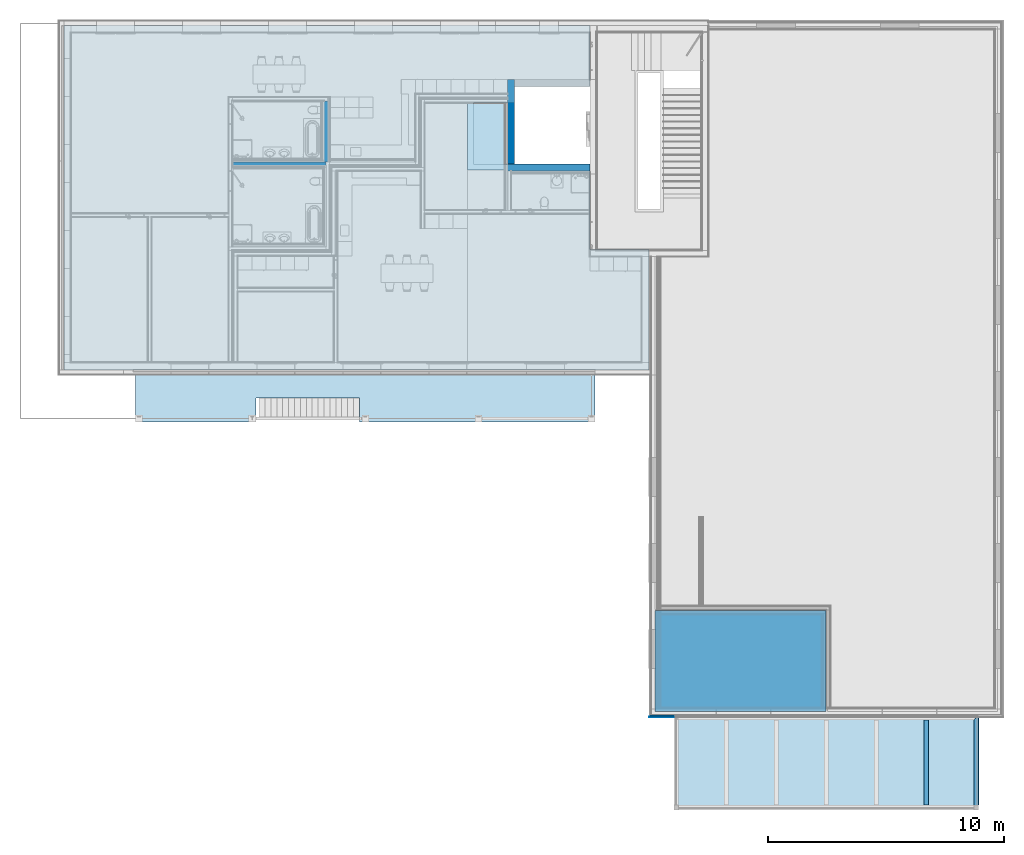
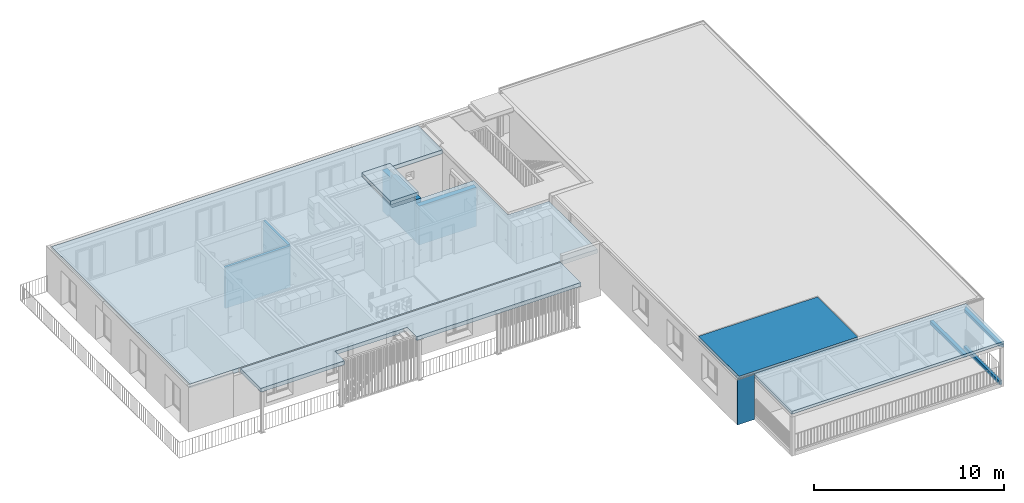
# One storey, part 2 of 34: 7 building element parts, 4 slabs, 4 walls, 3 beams, 2 elements without a shape of their own.
"""IFC4 building model written with IfcOpenShell, lengths in millimetres."""

from ifc_helpers import new_model, entity, si_unit, converted_unit, derived_unit, direction, frame, origin_with_axes, place, context, subcontext, project, spatial, polygons, material, constituent, constituent_set, type_object, element, aggregate, save


model = new_model("IFC4")

# Units and contexts
model_context = context("Model", 3, precision=0.01, world=origin_with_axes(), true_north=direction((0.0, 1.0)))
body_context = subcontext(model_context, "Body", "Model", "MODEL_VIEW")
ifc_project = project(units=[si_unit("LENGTHUNIT", "METRE", prefix="MILLI"), si_unit("AREAUNIT", "SQUARE_METRE"), si_unit("VOLUMEUNIT", "CUBIC_METRE"), converted_unit("PLANEANGLEUNIT", "DEGREE", entity("IfcPlaneAngleMeasure", 0.0174532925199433), si_unit("PLANEANGLEUNIT", "RADIAN"), dimensions=[0, 0, 0, 0, 0, 0, 0]), converted_unit("TIMEUNIT", "Year", entity("IfcTimeMeasure", 31557600.0), si_unit("TIMEUNIT", "SECOND"), dimensions=[0, 0, 1, 0, 0, 0, 0]), si_unit("MASSUNIT", "GRAM", prefix="KILO"), si_unit("THERMODYNAMICTEMPERATUREUNIT", "DEGREE_CELSIUS"), si_unit("LUMINOUSINTENSITYUNIT", "LUMEN"), si_unit("ENERGYUNIT", "JOULE", prefix="MEGA"), derived_unit("THERMALCONDUCTANCEUNIT", [(si_unit("POWERUNIT", "WATT"), 1), (si_unit("LENGTHUNIT", "METRE"), -1), (si_unit("THERMODYNAMICTEMPERATUREUNIT", "KELVIN"), -1)]), derived_unit("SPECIFICHEATCAPACITYUNIT", [(si_unit("ENERGYUNIT", "JOULE"), 1), (si_unit("MASSUNIT", "GRAM", prefix="KILO"), -1), (si_unit("THERMODYNAMICTEMPERATUREUNIT", "KELVIN"), -1)]), derived_unit("MASSDENSITYUNIT", [(si_unit("MASSUNIT", "GRAM", prefix="KILO"), 1), (si_unit("VOLUMEUNIT", "CUBIC_METRE"), -1)])], contexts=[model_context])

# Site, building, storey
site_placement = place(None, origin_with_axes())
site = spatial("IfcSite", under=ifc_project, at=site_placement, Name="Gelände", CompositionType="ELEMENT")
building_placement = place(site_placement, origin_with_axes())
building = spatial("IfcBuilding", under=site, at=building_placement, Name="Gebäude", CompositionType="ELEMENT")
storey_placement = place(building_placement, frame((0.0, 0.0, 5799.999999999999), z_axis=(0.0, 0.0, 1.0), x_axis=(1.0, 0.0, 0.0)))
storey = spatial("IfcBuildingStorey", under=building, at=storey_placement, Name="2.OG", CompositionType="ELEMENT", Elevation=5800.0)

# Beams
ifc_material_1 = material(Name="Massivholz")
beam_type_1 = type_object("IfcBeamType", Name="Massivholz 200 x 200", PredefinedType="NOTDEFINED")
beam_1_placement = place(storey_placement, frame((31872.41342913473, 8518.597281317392, 3219.999895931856), z_axis=(0.0, 0.0, 1.0), x_axis=(-1.0, 0.0, 0.0)))
element("IfcBeam", 1, at=beam_1_placement, inside=storey, type_object=beam_type_1, material=ifc_material_1, Name="Unterzug-027", PredefinedType="NOTDEFINED", context=body_context, shape_type="Tessellation", body=[
    polygons([(199.9999999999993, 200.0000000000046, 0.0), (199.9999999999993, 3799.99999999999, 0.0), (0.0, 3999.999999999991, 0.0), (0.0, 0.0, 0.0), (199.9999999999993, 200.0000000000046, -199.9999999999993), (199.9999999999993, 3799.99999999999, -199.9999999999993), (0.0, 3999.999999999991, -199.9999999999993), (0.0, 0.0, -199.9999999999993)], [[[1, 2, 3, 4]], [[5, 6, 2, 1]], [[3, 2, 6, 7]], [[4, 3, 7, 8]], [[5, 1, 4, 8]], [[8, 7, 6, 5]]], closed=True),
])
beam_2_placement = place(storey_placement, frame((29664.99741907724, 8318.597281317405, 3219.999948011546), z_axis=(0.0, 0.0, 1.0), x_axis=(-1.0, 0.0, 0.0)))
element("IfcBeam", 2, at=beam_2_placement, inside=storey, type_object=beam_type_1, material=ifc_material_1, Name="Unterzug-027", PredefinedType="NOTDEFINED", context=body_context, shape_type="Tessellation", body=[
    polygons([(100.0000000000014, 0.0, 0.0), (99.99999999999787, 3599.999999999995, 0.0), (-100.0000000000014, 3599.999999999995, 0.0), (-100.0000000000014, 0.0, 0.0), (100.0000000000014, 0.0, -199.9999999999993), (99.99999999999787, 3599.999999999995, -199.9999999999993), (-100.0000000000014, 3599.999999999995, -199.9999999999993), (-100.0000000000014, 0.0, -199.9999999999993)], [[[1, 2, 3, 4]], [[5, 6, 2, 1]], [[3, 2, 6, 7]], [[4, 3, 7, 8]], [[5, 1, 4, 8]], [[8, 7, 6, 5]]], closed=True),
])
ifc_material_2 = material(Name="Stahl")
ifc_constituent_1 = constituent(ifc_material_2, Name="Stahl 1")
ifc_material_3 = material(Name="Vollholzwerkstoff")
ifc_constituent_2 = constituent(ifc_material_3, Name="Vollholzwerkstoff")
ifc_constituent_3 = constituent(ifc_material_2, Name="Stahl 2")
ifc_constituent_set_1 = constituent_set(constituents=[ifc_constituent_1, ifc_constituent_2, ifc_constituent_3], Name="Dachrand Typ 2")
beam_type_2 = type_object("IfcBeamType", Name="Dachrand Typ 2 172 x 269", PredefinedType="NOTDEFINED")
beam_3_placement = place(storey_placement, frame((31882.9974188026, 8518.597281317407, 500.0), z_axis=(0.0, 0.0, 1.0), x_axis=(-1.0, 0.0, 0.0)))
element("IfcBeam", 3, at=beam_3_placement, inside=storey, type_object=beam_type_2, material=ifc_constituent_set_1, Name="Unterzug-028", PredefinedType="NOTDEFINED", context=body_context, shape_type="Tessellation", body=[
    polygons([(-2.866253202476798, 3799.999999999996, 266.1622942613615), (-4.866256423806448, 3799.999999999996, 266.3597288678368), (-4.866256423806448, 80.10479096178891, 266.3597288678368), (-2.866253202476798, 79.17562515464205, 266.1622942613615), (-2.866253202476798, 3799.999999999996, 0.0), (-4.866256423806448, 3799.999999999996, 0.0), (-4.866256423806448, 80.10479096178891, 0.0), (-2.866253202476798, 79.17562515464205, 0.0)], [[[1, 2, 3, 4]], [[1, 5, 6, 2]], [[2, 6, 7, 3]], [[4, 3, 7, 8]], [[5, 1, 4, 8]], [[6, 5, 8, 7]]], closed=True),
    polygons([(0.0, 3799.999999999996, 0.0), (163.255780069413, 3799.999999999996, 0.0), (163.255780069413, 1.998292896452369, 0.0), (0.0, 77.84401506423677, 0.0), (0.0, 3799.999999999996, 263.8696237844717), (163.255780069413, 3799.999999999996, 247.7534740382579), (163.255780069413, 1.998292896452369, 247.7534740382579), (0.0, 77.84401506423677, 263.8696237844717)], [[[1, 2, 3, 4]], [[1, 5, 6, 2]], [[2, 6, 7, 3]], [[4, 3, 7, 8]], [[5, 1, 4, 8]], [[6, 5, 8, 7]]], closed=True),
    polygons([(-4.866256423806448, 3799.999999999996, 266.3597286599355), (-2.866253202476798, 3799.999999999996, 266.1622942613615), (-2.866253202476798, 79.17562515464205, 266.1622942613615), (-4.866256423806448, 80.10479096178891, 266.3597286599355), (-4.866256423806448, 3799.999999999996, 269.0765727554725), (167.5570486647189, 3799.999999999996, 251.311436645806), (167.5570085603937, 3799.999999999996, 219.9999996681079), (165.4522595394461, 3799.999999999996, 219.9999996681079), (165.4522595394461, 3799.999999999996, 249.5463650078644), (165.4522595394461, 0.9778477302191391, 249.5463650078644), (165.4522595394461, 0.9778477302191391, 219.9999996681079), (167.5570085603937, 1.889372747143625e-05, 219.9999996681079), (167.5570486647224, 2.619735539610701e-07, 251.311436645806), (-4.866256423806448, 80.10479096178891, 269.0765727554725)], [[[1, 2, 3, 4]], [[1, 5, 6, 7, 8, 9, 2]], [[2, 9, 10, 3]], [[4, 3, 10, 11, 12, 13, 14]], [[5, 1, 4, 14]], [[6, 5, 14, 13]], [[7, 6, 13, 12]], [[8, 7, 12, 11]], [[9, 8, 11, 10]]], closed=True),
])

# Slabs
ifc_material_4 = material(Name="Beton bewehrt")
ifc_constituent_4 = constituent(ifc_material_4, Name="Beton bewehrt")
ifc_constituent_set_2 = constituent_set(constituents=[ifc_constituent_4], Name="Geschossdecke Typ 03")
slab_type_1 = type_object("IfcSlabType", Name="Geschossdecke Typ 03 250", PredefinedType="NOTDEFINED")
slab_1_placement = place(storey_placement, frame((10228.99744477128, 34647.59728131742, 3549.999999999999), z_axis=(0.0, 0.0, 1.0), x_axis=(1.0, 0.0, 0.0)))
element("IfcSlab", 4, at=slab_1_placement, inside=storey, type_object=slab_type_1, material=ifc_constituent_set_2, Name="Deckennr.-073", PredefinedType="NOTDEFINED", context=body_context, shape_type="Tessellation", body=[
    polygons([(0.0, 0.0, 0.0), (0.0, 0.0, -250.0), (0.0, -3024.999999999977, -250.0), (0.0, -3024.999999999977, 0.0), (1700.000015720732, 0.0, 0.0), (1700.000015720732, 0.0, -250.0), (1700.000015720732, -3024.999999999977, -250.0), (1700.000015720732, -3024.999999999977, 0.0)], [[[1, 2, 3, 4]], [[5, 6, 2, 1]], [[3, 2, 6, 7]], [[4, 3, 7, 8]], [[5, 1, 4, 8]], [[8, 7, 6, 5]]], closed=True),
])
ifc_constituent_5 = constituent(ifc_material_4, Name="Beton bewehrt")
ifc_constituent_set_3 = constituent_set(constituents=[ifc_constituent_5], Name="Geschossdecke Typ 03")
slab_2_placement = place(storey_placement, frame((-6861.004181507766, 37737.59728131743, 2899.999948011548), z_axis=(0.0, 0.0, 1.0), x_axis=(1.0, 0.0, 0.0)))
element("IfcSlab", 5, at=slab_2_placement, inside=storey, type_object=slab_type_1, material=ifc_constituent_set_3, Name="Deckennr.-073", PredefinedType="NOTDEFINED", context=body_context, shape_type="Tessellation", body=[
    polygons([(0.0, -14580.00054054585, 0.0), (0.0, 0.0, 0.0), (0.0, 0.0, -250.0), (0.0, -14580.00054054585, -250.0), (22290.00162627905, -2589.999999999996, 0.0), (22290.00162627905, 0.0, 0.0), (24781.00162627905, -14580.00054054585, 0.0), (24781.00162627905, -9489.999999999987, 0.0), (22290.00162627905, -9489.999999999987, 0.0), (22290.00162627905, -5864.999999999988, 0.0), (17340.00162627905, -5864.999999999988, 0.0), (17340.00162627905, -3280.000000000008, 0.0), (19090.00162627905, -3280.000000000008, 0.0), (19090.00162627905, -2589.999999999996, 0.0), (22290.00162627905, 0.0, -250.0), (24781.00162627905, -14580.00054054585, -250.0), (22290.00162627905, -2589.999999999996, -250.0), (19090.00162627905, -2589.999999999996, -250.0), (19090.00162627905, -3280.000000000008, -250.0), (17340.00162627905, -3280.000000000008, -250.0), (17340.00162627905, -5864.999999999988, -250.0), (22290.00162627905, -5864.999999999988, -250.0), (22290.00162627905, -9489.999999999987, -250.0), (24781.00162627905, -9489.999999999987, -250.0)], [[[1, 2, 3, 4]], [[5, 6, 2, 1, 7, 8, 9, 10, 11, 12, 13, 14]], [[2, 6, 15, 3]], [[16, 4, 3, 15, 17, 18, 19, 20, 21, 22, 23, 24]], [[7, 1, 4, 16]], [[6, 5, 17, 15]], [[8, 7, 16, 24]], [[9, 8, 24, 23]], [[10, 9, 23, 22]], [[11, 10, 22, 21]], [[12, 11, 21, 20]], [[13, 12, 20, 19]], [[14, 13, 19, 18]], [[5, 14, 18, 17]]], closed=True),
])
ifc_material_5 = material(Name="Brettschichtholz BSH")
ifc_constituent_6 = constituent(ifc_material_5, Name="Brettschichtholz BSH")
ifc_constituent_set_4 = constituent_set(constituents=[ifc_constituent_6], Name="Geschossdecke Typ 02")
slab_type_2 = type_object("IfcSlabType", Name="Geschossdecke Typ 02 180", PredefinedType="NOTDEFINED")
slab_3_placement = place(storey_placement, frame((18974.99747005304, 4518.597281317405, 3399.999895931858), z_axis=(0.0, 0.0, 1.0), x_axis=(1.0, 0.0, 0.0)))
element("IfcSlab", 6, at=slab_3_placement, inside=storey, type_object=slab_type_2, material=ifc_constituent_set_4, Name="Deckennr.-073", PredefinedType="NOTDEFINED", context=body_context, shape_type="Tessellation", body=[
    polygons([(12907.99994874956, 0.0, 0.0), (0.0, 0.0, 0.0), (0.0, 0.0, -179.9999999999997), (12907.99994874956, 0.0, -179.9999999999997), (12907.99994874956, 4000.0, 0.0), (0.0, 4000.0, 0.0), (0.0, 4000.0, -179.9999999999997), (12907.99994874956, 4000.0, -179.9999999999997)], [[[1, 2, 3, 4]], [[5, 6, 2, 1]], [[2, 6, 7, 3]], [[8, 4, 3, 7]], [[5, 1, 4, 8]], [[6, 5, 8, 7]]], closed=True),
])
ifc_constituent_7 = constituent(ifc_material_4, Name="Beton bewehrt")
ifc_constituent_set_5 = constituent_set(constituents=[ifc_constituent_7], Name="Balkon Typ 01")
slab_type_3 = type_object("IfcSlabType", Name="Balkon Typ 01 250", PredefinedType="NOTDEFINED")
slab_4_placement = place(storey_placement, frame((-3825.204181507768, 20947.59674077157, 2899.999999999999), z_axis=(0.0, 0.0, 1.0), x_axis=(1.0, 0.0, 0.0)))
element("IfcSlab", 7, at=slab_4_placement, inside=storey, type_object=slab_type_3, material=ifc_constituent_set_5, Name="Deckennr.-073", PredefinedType="NOTDEFINED", context=body_context, shape_type="Tessellation", body=[
    polygons([(5090.799963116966, 0.0, 0.0), (0.0, 0.0, 0.0), (0.0, 0.0, -250.0), (5090.799963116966, 0.0, -250.0), (19463.19999999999, 2129.999965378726, 0.0), (0.0, 2129.999965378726, 0.0), (5090.799963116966, 1009.999998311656, 0.0), (9481.599999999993, 1009.999998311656, 0.0), (9481.599999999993, 0.0, 0.0), (19463.19999999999, 0.0, 0.0), (0.0, 2129.999965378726, -250.0), (5090.799963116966, 1009.999998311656, -250.0), (19463.19999999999, 2129.999965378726, -250.0), (19463.19999999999, 0.0, -250.0), (9481.599999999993, 0.0, -250.0), (9481.599999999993, 1009.999998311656, -250.0)], [[[1, 2, 3, 4]], [[5, 6, 2, 1, 7, 8, 9, 10]], [[2, 6, 11, 3]], [[12, 4, 3, 11, 13, 14, 15, 16]], [[7, 1, 4, 12]], [[6, 5, 13, 11]], [[8, 7, 12, 16]], [[9, 8, 16, 15]], [[10, 9, 15, 14]], [[5, 10, 14, 13]]], closed=True),
])

# Walls
ifc_material_6 = material(Name="MW, Backstein, Sichtmauerwerk")
ifc_constituent_8 = constituent(ifc_material_6, Name="MW, Backstein, Sichtmauerwerk")
ifc_constituent_set_6 = constituent_set(constituents=[ifc_constituent_8], Name="Innenwand Typ 02")
wall_type_1 = type_object("IfcWallType", Name="Innenwand Typ 02 150", PredefinedType="NOTDEFINED")
wall_1_placement = place(storey_placement, frame((282.9958184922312, 31962.59728131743, 0.0), z_axis=(0.0, 0.0, 1.0), x_axis=(1.0, 0.0, 0.0)))
element("IfcWall", 8, at=wall_1_placement, inside=storey, type_object=wall_type_1, material=ifc_constituent_set_6, Name="Wand-014", PredefinedType="NOTDEFINED", context=body_context, shape_type="Tessellation", body=[
    polygons([(0.0, -149.9999999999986, 2649.999948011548), (3963.000000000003, -149.9999999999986, 2649.999948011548), (3963.000000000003, 0.0, 2649.999948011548), (0.0, 0.0, 2649.999948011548), (0.0, -149.9999999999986, 0.0), (3963.000000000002, -149.9999999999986, 0.0), (3963.000000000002, 0.0, 0.0), (0.0, 0.0, 0.0)], [[[1, 2, 3, 4]], [[5, 6, 2, 1]], [[6, 7, 3, 2]], [[4, 3, 7, 8]], [[4, 8, 5, 1]], [[8, 7, 6, 5]]], closed=True),
])
ifc_constituent_9 = constituent(ifc_material_6, Name="MW, Backstein, Sichtmauerwerk")
ifc_constituent_set_7 = constituent_set(constituents=[ifc_constituent_9], Name="Innenwand Typ 02")
wall_2_placement = place(storey_placement, frame((4165.773549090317, 34704.06370406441, 0.0), z_axis=(0.0, 0.0, 1.0), x_axis=(0.0, -1.0, 0.0)))
element("IfcWall", 9, at=wall_2_placement, inside=storey, type_object=wall_type_1, material=ifc_constituent_set_7, Name="Wand-015", PredefinedType="NOTDEFINED", context=body_context, shape_type="Tessellation", body=[
    polygons([(2741.466422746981, 150.0000000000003, 0.0), (2741.466422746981, 0.0, 0.0), (159.9999999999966, 0.0, 0.0), (159.9999999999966, 150.0000000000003, 0.0), (2741.466422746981, 150.0000000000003, 2649.999948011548), (2741.466422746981, 0.0, 2649.999948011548), (159.9999999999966, 0.0, 2649.999948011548), (159.9999999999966, 150.0000000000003, 2649.999948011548)], [[[1, 2, 3, 4]], [[2, 1, 5, 6]], [[2, 6, 7, 3]], [[8, 4, 3, 7]], [[5, 1, 4, 8]], [[6, 5, 8, 7]]], closed=True),
])
ifc_constituent_10 = constituent(ifc_material_4, Name="Beton bewehrt")
ifc_constituent_set_8 = constituent_set(constituents=[ifc_constituent_10], Name="Innenwand Typ 08")
wall_type_2 = type_object("IfcWallType", Name="Innenwand Typ 08 300", PredefinedType="NOTDEFINED")
wall_3_placement = place(storey_placement, frame((11928.99744477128, 31572.59728131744, 0.0), z_axis=(0.0, 0.0, 1.0), x_axis=(1.0, 0.0, 0.0)))
element("IfcWall", 10, at=wall_3_placement, inside=storey, type_object=wall_type_2, material=ifc_constituent_set_8, Name="Wand-014", PredefinedType="NOTDEFINED", context=body_context, shape_type="Tessellation", body=[
    polygons([(3500.0, 0.0, 2650.0), (3500.000000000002, 0.0, 150.0000000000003), (3500.000000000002, 300.000088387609, 150.0000000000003), (3500.0, 300.0000000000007, 2650.0), (0.0, 0.0, 2649.999948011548), (0.0, 0.0, 150.0000000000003), (0.0, 300.0000000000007, 150.0000000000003), (299.9999760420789, 300.000088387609, 150.0000000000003), (0.0, 300.0000000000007, 2649.999948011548)], [[[1, 2, 3, 4]], [[5, 6, 2, 1]], [[7, 8, 3, 2, 6]], [[3, 8, 7, 9, 4]], [[5, 1, 4, 9]], [[9, 7, 6, 5]]], closed=True),
])
ifc_constituent_11 = constituent(ifc_material_4, Name="Beton bewehrt")
ifc_constituent_set_9 = constituent_set(constituents=[ifc_constituent_11], Name="Innenwand Typ 08")
wall_4_placement = place(storey_placement, frame((11928.99744477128, 35447.59728131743, 0.0), z_axis=(0.0, 0.0, 1.0), x_axis=(0.0, -1.0, 0.0)))
element("IfcWall", 11, at=wall_4_placement, inside=storey, type_object=wall_type_2, material=ifc_constituent_set_9, Name="Wand-014", PredefinedType="NOTDEFINED", context=body_context, shape_type="Tessellation", body=[
    polygons([(0.0, 0.0, 0.0), (0.0, 0.0, 2649.999948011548), (0.0, 300.0000000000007, 2649.999948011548), (0.0, 300.0000000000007, 0.0), (990.0000000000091, 0.0, 2649.999948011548), (600.0000000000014, 0.0, 0.0), (600.0000000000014, 0.0, 150.0000000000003), (3574.999999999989, 0.0, 150.0000000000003), (3574.999999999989, 0.0, 2899.999948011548), (990.0000000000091, 0.0, 2899.999948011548), (990.0000000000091, 300.0000000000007, 2649.999948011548), (299.9999999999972, 300.0000000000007, 2649.999948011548), (990.0000000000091, 300.0000000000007, 2899.999948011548), (3574.999999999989, 300.0000000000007, 2899.999948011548), (3574.99991161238, 299.9999760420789, 150.0000000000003), (600.0000000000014, 299.9999760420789, 150.0000000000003), (600.0000000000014, 299.9999760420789, 0.0)], [[[1, 2, 3, 4]], [[5, 2, 1, 6, 7, 8, 9, 10]], [[11, 12, 3, 2, 5]], [[4, 3, 12, 11, 13, 14, 15, 16, 17]], [[4, 17, 6, 1]], [[6, 17, 16, 7]], [[8, 7, 16, 15]], [[15, 14, 9, 8]], [[10, 9, 14, 13]], [[5, 10, 13, 11]]], closed=True),
])

# Curtain wall, building element parts
curtain_wall_type = type_object("IfcCurtainWallType", Name="Fassade Typ 02 - Vertikale Schalung 71", PredefinedType="NOTDEFINED")
curtain_wall_placement = place(storey_placement, frame((18974.99747005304, 8447.597281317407, 500.0000000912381), z_axis=(0.0, 0.0, 1.0), x_axis=(-1.0, 0.0, 0.0)))
curtain_wall = element("IfcCurtainWall", 12, at=curtain_wall_placement, inside=storey, type_object=curtain_wall_type, Name="Wand-014", PredefinedType="NOTDEFINED")
ifc_material_7 = material(Name="Falzschalung vertikal")
building_element_part_1_placement = place(curtain_wall_placement, origin_with_axes())
building_element_part_1 = element("IfcBuildingElementPart", 13, at=building_element_part_1_placement, material=ifc_material_7, Name="Falzschalung vertikal", PredefinedType="NOTDEFINED", context=body_context, shape_type="Tessellation", body=[
    polygons([(1046.00002528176, -21.0000000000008, 2.677007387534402), (1025.000025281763, -20.99999999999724, 4.750068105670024), (0.0, -21.0000000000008, 4.750068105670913), (0.0, -21.0000000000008, 0.0), (1046.00002528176, -21.0000000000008, 0.0), (1046.00002528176, 0.0, 2.677007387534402), (0.0, 0.0, 2.677007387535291), (0.0, 0.0, 0.0), (1046.00002528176, 0.0, 0.0)], [[[1, 2, 3, 4, 5]], [[6, 2, 1]], [[2, 6, 7, 3]], [[3, 7, 8, 4]], [[9, 5, 4, 8]], [[6, 1, 5, 9]], [[7, 6, 9, 8]]], closed=True),
    polygons([(1046.000025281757, 0.0, 5.507265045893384), (1025.000025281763, -20.99999999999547, 7.665565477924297), (0.0, -21.0000000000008, 7.665565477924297), (0.0, 0.0, 5.507265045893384), (1046.00002528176, -21.0000000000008, 5.507265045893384), (1046.00002528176, -20.99999999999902, 2899.99999990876), (0.0, -20.99999999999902, 2899.99999990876), (0.0, 0.0, 2899.99999990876), (1046.00002528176, 0.0, 2899.99999990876)], [[[1, 2, 3, 4]], [[5, 2, 1]], [[2, 5, 6, 7, 3]], [[4, 3, 7, 8]], [[1, 4, 8, 9]], [[5, 1, 9, 6]], [[6, 9, 8, 7]]], closed=True),
])
ifc_material_8 = material(Name="Lattenrost horizontal")
building_element_part_2_placement = place(curtain_wall_placement, origin_with_axes())
building_element_part_2 = element("IfcBuildingElementPart", 14, at=building_element_part_2_placement, material=ifc_material_8, Name="Lattenrost horizontal", PredefinedType="NOTDEFINED", context=body_context, shape_type="Tessellation", body=[
    polygons([(1025.000025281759, -45.99999999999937, 4.750068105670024), (1000.000025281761, -45.9999999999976, 7.217997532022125), (0.0, -45.99999999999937, 7.217997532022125), (0.0, -45.99999999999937, 0.0), (1025.000025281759, -45.99999999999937, 0.0), (1025.000025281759, -21.0000000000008, 4.750068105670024), (0.0, -21.0000000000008, 4.750068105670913), (0.0, -21.0000000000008, 0.0), (1025.000025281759, -21.0000000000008, 0.0)], [[[1, 2, 3, 4, 5]], [[6, 2, 1]], [[2, 6, 7, 3]], [[3, 7, 8, 4]], [[9, 5, 4, 8]], [[6, 1, 5, 9]], [[7, 6, 9, 8]]], closed=True),
    polygons([(1025.000025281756, -20.99999999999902, 7.665565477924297), (1000.000025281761, -45.99999999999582, 10.23497075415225), (0.0, -45.99999999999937, 10.23497075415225), (0.0, -21.0000000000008, 7.665565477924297), (1025.000025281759, -45.99999999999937, 7.665565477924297), (1025.000025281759, -45.99999999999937, 2899.99999990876), (0.0, -45.99999999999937, 2899.99999990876), (0.0, -20.99999999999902, 2899.99999990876), (1025.000025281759, -20.99999999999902, 2899.99999990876)], [[[1, 2, 3, 4]], [[5, 2, 1]], [[2, 5, 6, 7, 3]], [[4, 3, 7, 8]], [[1, 4, 8, 9]], [[5, 1, 9, 6]], [[6, 9, 8, 7]]], closed=True),
])
ifc_material_9 = material(Name="Lattenrost vertikal")
building_element_part_3_placement = place(curtain_wall_placement, origin_with_axes())
building_element_part_3 = element("IfcBuildingElementPart", 15, at=building_element_part_3_placement, material=ifc_material_9, Name="Lattenrost vertikal", PredefinedType="NOTDEFINED", context=body_context, shape_type="Tessellation", body=[
    polygons([(1000.000025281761, -70.99999999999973, 7.217997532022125), (975.0000252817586, -70.99999999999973, 9.685926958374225), (0.0, -70.99999999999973, 9.685926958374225), (0.0, -70.99999999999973, 0.0), (1000.000025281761, -70.99999999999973, 0.0), (1000.000025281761, -45.99999999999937, 7.217997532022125), (0.0, -45.99999999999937, 7.217997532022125), (0.0, -45.99999999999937, 0.0), (1000.000025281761, -45.99999999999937, 0.0)], [[[1, 2, 3, 4, 5]], [[6, 2, 1]], [[2, 6, 7, 3]], [[3, 7, 8, 4]], [[9, 5, 4, 8]], [[6, 1, 5, 9]], [[7, 6, 9, 8]]], closed=True),
    polygons([(977.7000264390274, -68.29999884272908, 42.69563016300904), (977.7000264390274, -70.99999999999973, 42.69563016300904), (975.0000252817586, -70.99999999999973, 42.69563016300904), (0.0, -70.99999999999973, 42.69563016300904), (0.0, -68.29999884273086, 42.69563016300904), (977.7000264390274, -70.99999999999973, 12.52688014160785), (977.7000264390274, -68.29999884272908, 12.52688014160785), (1000.000025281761, -70.99999999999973, 10.23497075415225), (1000.000025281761, -70.99999999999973, 2899.99999990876), (0.0, -70.99999999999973, 2899.99999990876), (0.0, -68.29999884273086, 12.52688014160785), (0.0, -45.99999999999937, 2899.99999990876), (0.0, -45.99999999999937, 10.23497075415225), (1000.000025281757, -45.9999999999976, 10.23497075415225), (1000.000025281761, -45.99999999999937, 2899.99999990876)], [[[1, 2, 3, 4, 5]], [[6, 2, 1, 7]], [[6, 8, 9, 10, 4, 3, 2]], [[11, 5, 4, 10, 12, 13]], [[7, 1, 5, 11]], [[8, 6, 7, 14]], [[8, 14, 15, 9]], [[9, 15, 12, 10]], [[14, 13, 12, 15]], [[14, 7, 11, 13]]], closed=True),
])
aggregate(curtain_wall, [building_element_part_1, building_element_part_2, building_element_part_3])

# Slab, building element parts
slab_type_4 = type_object("IfcSlabType", Name="Geschossdecke Typ 01 256", PredefinedType="NOTDEFINED")
slab_5_placement = place(storey_placement, frame((18177.99744477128, 8696.597281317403, 3399.999948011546), z_axis=(0.0, 0.0, 1.0), x_axis=(1.0, 0.0, 0.0)))
slab_5 = element("IfcSlab", 16, at=slab_5_placement, inside=storey, type_object=slab_type_4, Name="Deckennr.-073", PredefinedType="NOTDEFINED")
ifc_material_10 = material(Name="Grobspanplatte-OSB")
building_element_part_4_placement = place(slab_5_placement, origin_with_axes())
building_element_part_4 = element("IfcBuildingElementPart", 17, at=building_element_part_4_placement, material=ifc_material_10, Name="Grobspanplatte-OSB", PredefinedType="NOTDEFINED", context=body_context, shape_type="Tessellation", body=[
    polygons([(7230.999999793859, 0.0, -18.00000000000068), (7230.999999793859, 0.0, 0.0), (0.0, 0.0, 0.0), (0.0, 0.0, -18.00000000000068), (7230.999999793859, 4258.000000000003, -18.00000000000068), (7230.999999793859, 4258.000000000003, 0.0), (0.0, 4258.000000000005, 0.0), (0.0, 4258.000000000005, -18.00000000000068)], [[[1, 2, 3, 4]], [[5, 6, 2, 1]], [[3, 2, 6, 7]], [[4, 3, 7, 8]], [[4, 8, 5, 1]], [[8, 7, 6, 5]]], closed=True),
])
ifc_material_11 = material(Name="Balken Konstruktion ungedämmt")
building_element_part_5_placement = place(slab_5_placement, origin_with_axes())
building_element_part_5 = element("IfcBuildingElementPart", 18, at=building_element_part_5_placement, material=ifc_material_11, Name="Balken Konstruktion ungedämmt", PredefinedType="NOTDEFINED", context=body_context, shape_type="Tessellation", body=[
    polygons([(7230.999999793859, 0.0, -137.9999999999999), (7230.999999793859, 0.0, -18.00000000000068), (0.0, 0.0, -18.00000000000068), (0.0, 0.0, -137.9999999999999), (7230.999999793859, 4258.000000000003, -137.9999999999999), (7230.999999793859, 4258.000000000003, -18.00000000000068), (0.0, 4258.000000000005, -18.00000000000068), (0.0, 4258.000000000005, -137.9999999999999)], [[[1, 2, 3, 4]], [[5, 6, 2, 1]], [[3, 2, 6, 7]], [[4, 3, 7, 8]], [[4, 8, 5, 1]], [[8, 7, 6, 5]]], closed=True),
])
ifc_material_12 = material(Name="Balken Konstruktion gedämmt")
building_element_part_6_placement = place(slab_5_placement, origin_with_axes())
building_element_part_6 = element("IfcBuildingElementPart", 19, at=building_element_part_6_placement, material=ifc_material_12, Name="Balken Konstruktion gedämmt", PredefinedType="NOTDEFINED", context=body_context, shape_type="Tessellation", body=[
    polygons([(7230.999999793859, 0.0, -237.9999999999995), (7230.999999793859, 0.0, -137.9999999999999), (0.0, 0.0, -137.9999999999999), (0.0, 0.0, -237.9999999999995), (7230.999999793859, 4258.000000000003, -237.9999999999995), (7230.999999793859, 4258.000000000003, -137.9999999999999), (0.0, 4258.000000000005, -137.9999999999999), (0.0, 4258.000000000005, -237.9999999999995)], [[[1, 2, 3, 4]], [[5, 6, 2, 1]], [[3, 2, 6, 7]], [[4, 3, 7, 8]], [[4, 8, 5, 1]], [[8, 7, 6, 5]]], closed=True),
])
building_element_part_7_placement = place(slab_5_placement, origin_with_axes())
building_element_part_7 = element("IfcBuildingElementPart", 20, at=building_element_part_7_placement, material=ifc_material_10, Name="Grobspanplatte-OSB", PredefinedType="NOTDEFINED", context=body_context, shape_type="Tessellation", body=[
    polygons([(0.0, 0.0, -256.0000000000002), (7230.999999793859, 0.0, -256.0000000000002), (7230.999999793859, 0.0, -237.9999999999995), (0.0, 0.0, -237.9999999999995), (0.0, 4258.000000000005, -256.0000000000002), (7230.999999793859, 4258.000000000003, -256.0000000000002), (7230.999999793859, 4258.000000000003, -237.9999999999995), (0.0, 4258.000000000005, -237.9999999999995)], [[[1, 2, 3, 4]], [[1, 5, 6, 2]], [[2, 6, 7, 3]], [[4, 3, 7, 8]], [[5, 1, 4, 8]], [[6, 5, 8, 7]]], closed=True),
])
aggregate(slab_5, [building_element_part_4, building_element_part_5, building_element_part_6, building_element_part_7])

save(model, "model.ifc")
